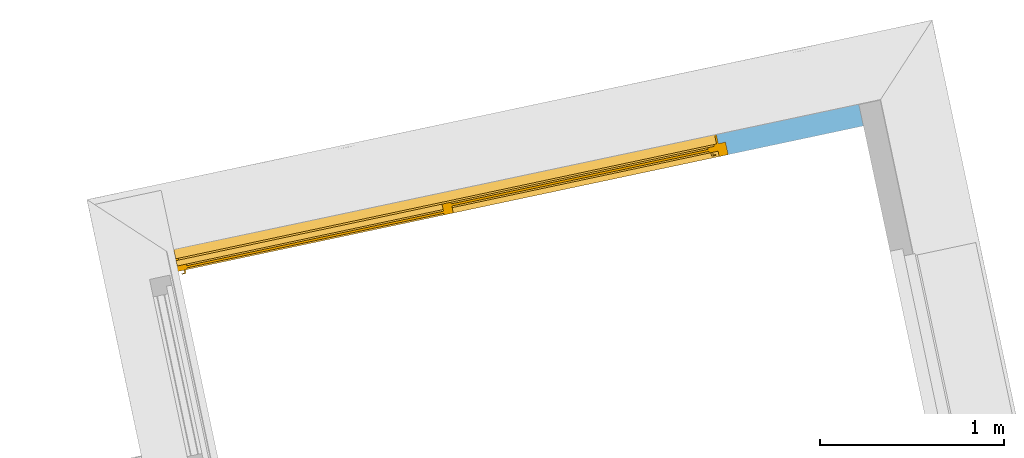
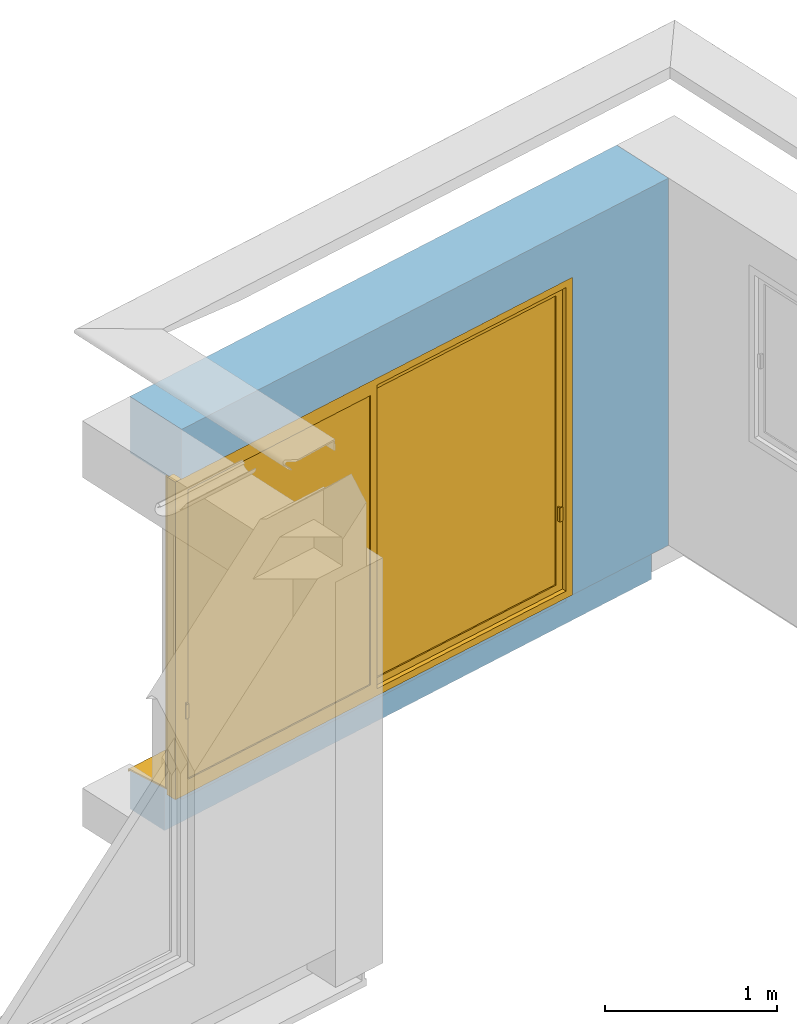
"""IFC2X3 building model written with IfcOpenShell, lengths in centimetres."""

from ifc_helpers import new_model, entity, si_unit, converted_unit, derived_unit, direction, frame, frame_2d, origin, place, context, subcontext, project, spatial, polyline, rectangle, extrude, clip, bounded_halfspace, faceted_brep, source, transform, mapped, material, material_list, layer, layer_set, layer_usage, type_object, type_shapes, element, fill, save


model = new_model("IFC2X3")

# Units and contexts
model_context = context("Model", 3, precision=0.001, world=origin(), true_north=direction((6.12303176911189e-17, 1.0)))
body_context = subcontext(model_context, "Body", "Model", "MODEL_VIEW")
ifc_project = project(units=[si_unit("LENGTHUNIT", "METRE", prefix="CENTI"), si_unit("AREAUNIT", "SQUARE_METRE"), si_unit("VOLUMEUNIT", "CUBIC_METRE"), converted_unit("PLANEANGLEUNIT", "DEGREE", entity("IfcRatioMeasure", 0.0174532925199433), si_unit("PLANEANGLEUNIT", "RADIAN"), dimensions=[0, 0, 0, 0, 0, 0, 0]), si_unit("MASSUNIT", "GRAM", prefix="KILO"), derived_unit("MASSDENSITYUNIT", [(si_unit("MASSUNIT", "GRAM", prefix="KILO"), 1), (si_unit("LENGTHUNIT", "METRE"), -3)]), derived_unit("IONCONCENTRATIONUNIT", [(si_unit("MASSUNIT", "GRAM", prefix="KILO"), 1), (si_unit("LENGTHUNIT", "METRE"), -3)]), derived_unit("MOMENTOFINERTIAUNIT", [(si_unit("LENGTHUNIT", "METRE"), 4)]), si_unit("TIMEUNIT", "SECOND"), si_unit("FREQUENCYUNIT", "HERTZ"), si_unit("THERMODYNAMICTEMPERATUREUNIT", "DEGREE_CELSIUS"), derived_unit("THERMALTRANSMITTANCEUNIT", [(si_unit("MASSUNIT", "GRAM", prefix="KILO"), 1), (si_unit("THERMODYNAMICTEMPERATUREUNIT", "KELVIN"), -1), (si_unit("TIMEUNIT", "SECOND"), -3)]), derived_unit("THERMALCONDUCTANCEUNIT", [(si_unit("MASSUNIT", "GRAM", prefix="KILO"), 1), (si_unit("THERMODYNAMICTEMPERATUREUNIT", "KELVIN"), -1), (si_unit("TIMEUNIT", "SECOND"), -3), (si_unit("LENGTHUNIT", "METRE"), 1)]), derived_unit("VOLUMETRICFLOWRATEUNIT", [(si_unit("LENGTHUNIT", "METRE"), 3), (si_unit("TIMEUNIT", "SECOND"), -1)]), derived_unit("MASSFLOWRATEUNIT", [(si_unit("MASSUNIT", "GRAM", prefix="KILO"), 1), (si_unit("TIMEUNIT", "SECOND"), -1)]), derived_unit("ROTATIONALFREQUENCYUNIT", [(si_unit("TIMEUNIT", "SECOND"), -1)]), si_unit("ELECTRICCURRENTUNIT", "AMPERE"), si_unit("ELECTRICVOLTAGEUNIT", "VOLT"), si_unit("POWERUNIT", "WATT"), si_unit("FORCEUNIT", "NEWTON", prefix="KILO"), si_unit("ILLUMINANCEUNIT", "LUX"), si_unit("LUMINOUSFLUXUNIT", "LUMEN"), si_unit("LUMINOUSINTENSITYUNIT", "CANDELA"), derived_unit("USERDEFINED", [(si_unit("MASSUNIT", "GRAM", prefix="KILO"), -1), (si_unit("LENGTHUNIT", "METRE"), -2), (si_unit("TIMEUNIT", "SECOND"), 3), (si_unit("LUMINOUSFLUXUNIT", "LUMEN"), 1)]), derived_unit("USERDEFINED", [(si_unit("MASSUNIT", "GRAM", prefix="KILO"), 1), (si_unit("TIMEUNIT", "SECOND"), -3), (si_unit("LENGTHUNIT", "METRE"), 3), (si_unit("ELECTRICCURRENTUNIT", "AMPERE"), -2)]), derived_unit("SOUNDPOWERUNIT", [(si_unit("MASSUNIT", "GRAM", prefix="KILO"), 1), (si_unit("TIMEUNIT", "SECOND"), -3), (si_unit("LENGTHUNIT", "METRE"), 2)]), derived_unit("SOUNDPRESSUREUNIT", [(si_unit("MASSUNIT", "GRAM", prefix="KILO"), 1), (si_unit("LENGTHUNIT", "METRE"), -1), (si_unit("TIMEUNIT", "SECOND"), -2)]), derived_unit("LINEARVELOCITYUNIT", [(si_unit("LENGTHUNIT", "METRE"), 1), (si_unit("TIMEUNIT", "SECOND"), -1)]), si_unit("PRESSUREUNIT", "PASCAL"), derived_unit("USERDEFINED", [(si_unit("MASSUNIT", "GRAM", prefix="KILO"), 1), (si_unit("LENGTHUNIT", "METRE"), -2), (si_unit("TIMEUNIT", "SECOND"), -2)]), derived_unit("LINEARFORCEUNIT", [(si_unit("MASSUNIT", "GRAM", prefix="KILO"), 1), (si_unit("TIMEUNIT", "SECOND"), -2)]), derived_unit("PLANARFORCEUNIT", [(si_unit("MASSUNIT", "GRAM", prefix="KILO"), 1), (si_unit("LENGTHUNIT", "METRE"), -1), (si_unit("TIMEUNIT", "SECOND"), -2)]), derived_unit("SPECIFICHEATCAPACITYUNIT", [(si_unit("THERMODYNAMICTEMPERATUREUNIT", "KELVIN"), -1), (si_unit("LENGTHUNIT", "METRE"), 2), (si_unit("TIMEUNIT", "SECOND"), -2)]), derived_unit("HEATINGVALUEUNIT", [(si_unit("LENGTHUNIT", "METRE"), 2), (si_unit("TIMEUNIT", "SECOND"), -2)]), derived_unit("VAPORPERMEABILITYUNIT", [(si_unit("LENGTHUNIT", "METRE"), -1), (si_unit("TIMEUNIT", "SECOND"), 1)]), derived_unit("DYNAMICVISCOSITYUNIT", [(si_unit("MASSUNIT", "GRAM", prefix="KILO"), 1), (si_unit("TIMEUNIT", "SECOND"), -1), (si_unit("LENGTHUNIT", "METRE"), -1)]), derived_unit("THERMALEXPANSIONCOEFFICIENTUNIT", [(si_unit("THERMODYNAMICTEMPERATUREUNIT", "KELVIN"), -1)]), derived_unit("MODULUSOFELASTICITYUNIT", [(si_unit("MASSUNIT", "GRAM", prefix="KILO"), 1), (si_unit("LENGTHUNIT", "METRE"), -1), (si_unit("TIMEUNIT", "SECOND"), -2)]), derived_unit("ISOTHERMALMOISTURECAPACITYUNIT", [(si_unit("LENGTHUNIT", "METRE"), 3), (si_unit("MASSUNIT", "GRAM", prefix="KILO"), -1)]), derived_unit("MOISTUREDIFFUSIVITYUNIT", [(si_unit("TIMEUNIT", "SECOND"), -1), (si_unit("LENGTHUNIT", "METRE"), 2)])], contexts=[model_context])

# Site, building, storey
site_placement = place(None, frame((14083.8920177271, -6853.25409548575, 6900.0), z_axis=(0.0, 0.0, 1.0), x_axis=(0.978188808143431, 0.207717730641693, 0.0)))
site = spatial("IfcSite", under=ifc_project, at=site_placement, Name="Surface", CompositionType="ELEMENT")
building_placement = place(site_placement, origin())
building = spatial("IfcBuilding", under=site, at=building_placement, CompositionType="ELEMENT")
storey_1_placement = place(building_placement, frame((0.0, 0.0, -17.0)))
storey_1 = spatial("IfcBuildingStorey", under=building, at=storey_1_placement, Name="Rez de chaussée (SD)", CompositionType="ELEMENT", Elevation=-16.9999999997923)

# Wall, openings
ifc_material_1 = material(Name="__ PIERRE______________________TEST")
ifc_layer_1 = layer(ifc_material_1, 10.0)
ifc_material_2 = material(Name="__ BETON_parpaings")
ifc_layer_2 = layer(ifc_material_2, 20.0)
ifc_material_3 = material(Name="__ ISOLANT (pat 1)")
ifc_layer_3 = layer(ifc_material_3, 13.0)
ifc_material_4 = material(Name="__ ENDUIT_Blanc")
ifc_layer_4 = layer(ifc_material_4, 2.0)
ifc_layer_set = layer_set([ifc_layer_1, ifc_layer_2, ifc_layer_3, ifc_layer_4], Name="Mur de base:*Mur (45) maçonné isolé + parement pierre")
ifc_layer_usage = layer_usage(ifc_layer_set, "AXIS2", "NEGATIVE", 22.5)
wall_type = type_object("IfcWallType", Name="Mur de base:*Mur (45) maçonné isolé + parement pierre", PredefinedType="STANDARD", material=ifc_layer_set)
wall_placement = place(storey_1_placement, frame((-6239.81321908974, 15699.6673447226, -15.0)))
wall = element("IfcWallStandardCase", 1, at=wall_placement, inside=storey_1, type_object=wall_type, material=ifc_layer_usage, Name="Mur de base:*Mur (45) maçonné isolé + parement pierre", ObjectType="Mur de base:*Mur (45) maçonné isolé + parement pierre", context=body_context, shape_type="Clipping", body=[
    clip(clip(extrude(rectangle(XDim=380.0, YDim=45.0000000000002, at=frame_2d((190.0, 0.0), x_axis=(-1.0, 0.0))), origin(), (0.0, 0.0, 1.0), 291.999999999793), bounded_halfspace(frame((300.0, -7.50000000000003, 32.0), z_axis=(0.0, 0.0, 1.0), x_axis=(0.0, 1.0, 0.0)), True, frame((300.0, -7.50000000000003, 32.0), z_axis=(0.0, 0.0, 1.0), x_axis=(0.0, 1.0, 0.0)), polyline([(0.0, 0.0), (-2.0, 0.0), (-2.0, -1.0), (-8.0, -1.0), (-8.0, -5.0), (-15.0, -5.0), (-15.0, -80.0), (0.0, -80.0), (0.0, 0.0)]))), bounded_halfspace(frame((380.0, -7.50000000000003, 32.0), z_axis=(0.0, 1.0, 0.0), x_axis=(0.0, 0.0, 1.0)), True, frame((380.0, -7.50000000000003, 32.0), z_axis=(0.0, 1.0, 0.0), x_axis=(0.0, 0.0, 1.0)), polyline([(0.0, 0.0), (-27.0, 0.0), (-32.0, 0.0), (-32.0, -380.0), (-1.9204169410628, -380.0), (-1.92041694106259, -80.0), (0.0, -80.0), (0.0, 0.0)]))),
])
opening_1_placement = place(wall_placement, origin())
element("IfcOpeningElement", 2, at=opening_1_placement, cuts=wall, Name="Mur de base:*Mur (45) maçonné isolé + parement pierre", ObjectType="Opening", context=body_context, shape_type="SweptSolid", body=[
    extrude(rectangle(XDim=220.0, YDim=37.0000000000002, at=frame_2d((0.0, 0.0), x_axis=(0.0, 1.0))), frame((-18.5000000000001, -132.499999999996, 142.0), z_axis=(0.0, 1.0, 0.0), x_axis=(1.0, 0.0, 0.0)), (0.0, 0.0, 1.0), 109.999999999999),
])
opening_2_placement = place(wall_placement, frame((-5.0, -50.0, 24.0360895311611)))
opening_2 = element("IfcOpeningElement", 3, at=opening_2_placement, cuts=wall, Name="Mur de base:*Mur (45) maçonné isolé + parement pierre", ObjectType="Opening", context=body_context, shape_type="Brep", body=[
    faceted_brep([(305.0, 38.5000000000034, 7.96391046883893), (305.0, 38.5000000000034, 6.46391046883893), (305.0, 100.0, 0.0), (305.0, 100.0, 227.963910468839), (305.0, 40.5000000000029, 227.963910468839), (305.0, 40.5000000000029, 7.96391046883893), (5.0, 0.0, 7.96391046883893), (5.0, 0.0, 227.963910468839), (5.0, 27.5000000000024, 227.963910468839), (5.0, 27.5000000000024, 7.96391046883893), (305.0, 0.0, 7.96391046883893), (0.0, 27.5000000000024, 7.96391046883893), (0.0, 34.5000000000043, 7.96391046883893), (4.0, 34.5000000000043, 7.96391046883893), (4.0, 40.5000000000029, 7.96391046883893), (5.0, 40.5000000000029, 7.96391046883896), (5.0, 38.5000000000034, 7.96391046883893), (306.0, 40.5000000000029, 7.96391046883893), (306.0, 34.5000000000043, 7.96391046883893), (310.0, 34.5000000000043, 7.96391046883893), (310.0, 27.5000000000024, 7.96391046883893), (305.0, 27.5000000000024, 7.96391046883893), (305.0, 0.0, 227.963910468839), (305.0, 27.5000000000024, 227.963910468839), (5.0, 100.0, 0.0), (5.0, 100.0, 227.963910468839), (5.0, 38.5000000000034, 6.46391046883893), (310.0, 34.5000000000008, 232.96391046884), (310.0, 27.5000000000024, 232.96391046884), (306.0, 34.5000000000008, 228.963910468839), (4.0, 34.5000000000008, 228.963910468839), (0.0, 34.5000000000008, 232.96391046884), (306.0, 40.4999999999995, 228.963910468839), (5.0, 40.5000000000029, 227.963910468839), (4.0, 40.5000000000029, 228.963910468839), (0.0, 27.5000000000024, 232.96391046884)], [[[0, 1, 2, 3, 4, 5]], [[6, 7, 8, 9]], [[10, 6, 9, 11, 12, 13, 14, 15, 16, 0, 5, 17, 18, 19, 20, 21]], [[10, 22, 7, 6]], [[7, 22, 23, 8]], [[3, 2, 24, 25]], [[2, 1, 26, 24]], [[1, 0, 16, 26]], [[20, 19, 27, 28]], [[19, 18, 29, 30, 13, 12, 31, 27]], [[18, 17, 32, 29]], [[17, 5, 4, 33, 15, 14, 34, 32]], [[21, 20, 28, 35, 11, 9, 8, 23]], [[28, 27, 31, 35]], [[30, 29, 32, 34]], [[31, 12, 11, 35]], [[13, 30, 34, 14]], [[3, 25, 33, 4]], [[25, 24, 26, 16, 15, 33]], [[22, 10, 21, 23]]]),
])

# Storey
storey_2_placement = place(building_placement, origin())
storey_2 = spatial("IfcBuildingStorey", under=building, at=storey_2_placement, Name="_Rez de chaussée Séjour", CompositionType="ELEMENT", Elevation=2.07727662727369e-10)

# Window
ifc_material_5 = material(Name="Fenêtre - Poignée")
ifc_material_6 = material(Name="Fenêtre - Appui")
ifc_material_7 = material(Name="Fenêtre - Vitrage")
ifc_material_8 = material(Name="__ METAL_gris foncé (menuiseries acier)______________________TEST")
ifc_material_9 = material(Name="Fenêtre - Cadre")
ifc_material_list = material_list([ifc_material_5, ifc_material_6, ifc_material_7, ifc_material_8, ifc_material_9])
window_style = type_object("IfcWindowStyle", Name="2 Vantaux coulissants - Droits:c 300x220", ConstructionType="NOTDEFINED", OperationType="DOUBLE_PANEL_VERTICAL", ParameterTakesPrecedence=False, Sizeable=False, material=ifc_material_list)
shared_shape = source(origin(), body_context, "Body", "Brep", [
    faceted_brep([(302.0, -26.0, 62.9639104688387), (302.904778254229, -26.0, 62.9639104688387), (302.904778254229, -26.4999999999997, 62.9639104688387), (301.246868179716, -26.4999999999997, 62.9639104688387), (301.0, -26.2531318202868, 62.9639104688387), (301.0, -24.4999999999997, 62.9639104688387), (302.0, -24.4999999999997, 62.9639104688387), (301.0, -24.4999999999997, 72.9639104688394), (301.0, -26.2531318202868, 72.9639104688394), (301.246868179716, -26.4999999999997, 72.9639104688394), (302.904778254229, -26.4999999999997, 72.9639104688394), (302.904778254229, -26.0, 72.9639104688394), (302.0, -26.0, 72.9639104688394), (302.0, -24.4999999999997, 72.9639104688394), (303.325663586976, -26.0, 72.7895740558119), (303.500000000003, -26.0, 72.3686887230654), (303.500000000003, -26.0, 63.559132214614), (303.325663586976, -26.0, 63.1382468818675), (303.500000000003, -26.4999999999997, 63.559132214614), (303.500000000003, -26.4999999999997, 72.3686887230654), (303.325663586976, -26.4999999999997, 63.1382468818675), (303.325663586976, -26.4999999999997, 72.7895740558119)], [[[0, 1, 2, 3, 4, 5, 6]], [[7, 8, 9, 10, 11, 12, 13]], [[5, 4, 8, 7]], [[6, 5, 7, 13]], [[0, 6, 13, 12]], [[1, 0, 12, 11, 14, 15, 16, 17]], [[18, 16, 15, 19]], [[20, 18, 19, 21, 10, 9, 3, 2]], [[4, 3, 9, 8]], [[10, 21, 14, 11]], [[14, 21, 19, 15]], [[18, 20, 17, 16]], [[17, 20, 2, 1]]]),
    faceted_brep([(8.75313182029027, -29.5000000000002, 62.9639104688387), (7.09522174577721, -29.5000000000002, 62.9639104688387), (7.09522174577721, -29.0, 62.9639104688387), (8.0, -29.0, 62.9639104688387), (8.0, -27.5000000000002, 62.9639104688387), (9.0, -27.5000000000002, 62.9639104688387), (9.0, -29.2531318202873, 62.9639104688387), (8.0, -27.5000000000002, 72.9639104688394), (8.0, -29.0, 72.9639104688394), (7.09522174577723, -29.0, 72.9639104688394), (7.09522174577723, -29.5000000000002, 72.9639104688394), (8.75313182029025, -29.5000000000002, 72.9639104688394), (9.0, -29.2531318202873, 72.9639104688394), (9.0, -27.5000000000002, 72.9639104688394), (6.50000000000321, -29.0, 63.559132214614), (6.50000000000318, -29.0, 72.3686887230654), (6.67433641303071, -29.0, 72.7895740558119), (6.67433641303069, -29.0, 63.1382468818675), (6.50000000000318, -29.5000000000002, 72.3686887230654), (6.50000000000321, -29.5000000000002, 63.559132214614), (6.67433641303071, -29.5000000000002, 72.7895740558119), (6.67433641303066, -29.5000000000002, 63.1382468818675)], [[[0, 1, 2, 3, 4, 5, 6]], [[7, 8, 9, 10, 11, 12, 13]], [[12, 6, 5, 13]], [[13, 5, 4, 7]], [[7, 4, 3, 8]], [[14, 15, 16, 9, 8, 3, 2, 17]], [[18, 15, 14, 19]], [[1, 0, 11, 10, 20, 18, 19, 21]], [[11, 0, 6, 12]], [[9, 16, 20, 10]], [[15, 18, 20, 16]], [[14, 17, 21, 19]], [[2, 1, 21, 17]]]),
    faceted_brep([(5.0, 19.0, 3.25823129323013), (5.0, 19.0, 1.70265964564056), (5.0, 18.5000000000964, 1.7552117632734), (5.0, 18.5000000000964, 2.78526223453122), (5.0, -16.4999999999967, 6.46391046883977), (5.0, -16.4999999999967, 7.96391046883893), (5.0, -16.0, 7.96391046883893), (5.0, -16.0, 6.93687952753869), (305.0, 19.0, 3.25823129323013), (305.0, -16.0, 6.93687952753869), (305.0, -16.0, 7.96391046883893), (305.0, -16.4999999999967, 7.96391046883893), (305.0, -16.4999999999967, 6.46391046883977), (305.0, 18.5000000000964, 2.78526223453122), (305.0, 18.5000000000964, 1.7552117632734), (305.0, 19.0, 1.70265964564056)], [[[0, 1, 2, 3, 4, 5, 6, 7]], [[8, 9, 10, 11, 12, 13, 14, 15]], [[7, 9, 8, 0]], [[6, 10, 9, 7]], [[5, 11, 10, 6]], [[4, 12, 11, 5]], [[3, 13, 12, 4]], [[2, 14, 13, 3]], [[1, 15, 14, 2]], [[0, 8, 15, 1]]]),
    faceted_brep([(305.0, 18.8972579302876, 3.66847605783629), (305.0, 18.6418113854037, 3.79863257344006), (305.0, -16.0, 7.43963366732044), (305.0, -16.0, 6.93687952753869), (305.0, 19.0, 3.25823129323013), (305.0, 19.0, 3.40082381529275), (304.500000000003, 18.6418113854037, 3.79863257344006), (304.500000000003, 18.8972579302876, 3.66847605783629), (304.500000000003, 19.0, 3.40082381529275), (304.500000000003, 19.0, 3.25823129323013), (304.500000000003, -16.0, 6.93687952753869), (304.500000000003, -16.0, 7.43963366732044)], [[[0, 1, 2, 3, 4, 5]], [[6, 7, 8, 9, 10, 11]], [[9, 4, 3, 10]], [[10, 3, 2, 11]], [[11, 2, 1, 6]], [[0, 7, 6, 1]], [[5, 8, 7, 0]], [[8, 5, 4, 9]]]),
    faceted_brep([(5.50000000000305, 18.8972579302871, 3.66847605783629), (5.50000000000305, 18.6418113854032, 3.79863257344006), (5.50000000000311, -16.0, 7.43963366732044), (5.50000000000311, -16.0, 6.93687952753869), (5.50000000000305, 19.0, 3.25823129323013), (5.50000000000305, 19.0, 3.40082381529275), (5.0, 18.6418113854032, 3.79863257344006), (5.0, 18.8972579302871, 3.66847605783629), (5.0, 19.0, 3.40082381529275), (5.0, 19.0, 3.25823129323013), (5.0, -16.0, 6.93687952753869), (5.0, -16.0, 7.43963366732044)], [[[0, 1, 2, 3, 4, 5]], [[6, 7, 8, 9, 10, 11]], [[9, 4, 3, 10]], [[10, 3, 2, 11]], [[6, 11, 2, 1]], [[0, 7, 6, 1]], [[5, 8, 7, 0]], [[8, 5, 4, 9]]]),
    faceted_brep([(157.500000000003, -22.4000000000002, 222.963910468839), (300.0, -22.3999999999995, 222.963910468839), (300.0, -22.3999999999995, 17.963910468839), (157.500000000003, -22.4000000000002, 17.963910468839), (157.500000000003, -23.6000000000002, 17.963910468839), (157.500000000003, -23.6000000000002, 222.963910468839), (300.0, -23.5999999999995, 17.963910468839), (300.0, -23.5999999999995, 222.963910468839)], [[[0, 1, 2, 3]], [[3, 4, 5, 0]], [[2, 6, 4, 3]], [[1, 7, 6, 2]], [[5, 4, 6, 7]], [[0, 5, 7, 1]]]),
    faceted_brep([(152.500000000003, -21.5000000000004, 227.963910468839), (152.500000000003, -21.5000000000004, 12.9639104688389), (152.500000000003, -24.5000000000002, 12.9639104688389), (152.500000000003, -24.5000000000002, 227.963910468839), (305.0, -21.4999999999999, 12.9639104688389), (305.0, -24.4999999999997, 12.9639104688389), (305.0, -24.4999999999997, 227.963910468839), (300.0, -24.4999999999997, 17.963910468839), (157.500000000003, -24.5000000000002, 17.963910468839), (157.500000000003, -24.5000000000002, 222.963910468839), (300.0, -24.4999999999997, 222.963910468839), (305.0, -21.4999999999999, 227.963910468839), (157.500000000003, -21.5000000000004, 17.963910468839), (300.0, -21.4999999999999, 17.963910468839), (300.0, -21.4999999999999, 222.963910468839), (157.500000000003, -21.5000000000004, 222.963910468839)], [[[0, 1, 2, 3]], [[1, 4, 5, 2]], [[2, 5, 6, 3], [7, 8, 9, 10]], [[4, 11, 6, 5]], [[4, 1, 0, 11], [12, 13, 14, 15]], [[9, 8, 12, 15]], [[8, 7, 13, 12]], [[7, 10, 14, 13]], [[11, 0, 3, 6]], [[10, 9, 15, 14]]]),
    faceted_brep([(152.500000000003, -25.4000000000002, 17.963910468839), (10.0, -25.4000000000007, 17.963910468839), (10.0, -25.4000000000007, 222.963910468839), (152.500000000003, -25.4000000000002, 222.963910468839), (152.500000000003, -26.6000000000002, 222.963910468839), (152.500000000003, -26.6000000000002, 17.963910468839), (10.0, -26.6000000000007, 17.963910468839), (10.0, -26.6000000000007, 222.963910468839)], [[[0, 1, 2, 3]], [[3, 4, 5, 0]], [[1, 6, 7, 2]], [[0, 5, 6, 1]], [[5, 4, 7, 6]], [[2, 7, 4, 3]]]),
    faceted_brep([(152.500000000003, -24.5000000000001, 222.963910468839), (152.500000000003, -24.5000000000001, 17.963910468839), (152.500000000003, -27.4999999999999, 17.963910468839), (152.500000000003, -27.4999999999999, 222.963910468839), (10.0, -24.5000000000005, 17.963910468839), (10.0, -27.5000000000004, 17.963910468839), (10.0, -27.5000000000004, 222.963910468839), (5.0, -27.5000000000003, 12.963910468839), (157.500000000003, -27.4999999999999, 12.963910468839), (157.500000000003, -27.4999999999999, 227.963910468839), (5.0, -27.5000000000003, 227.963910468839), (10.0, -24.5000000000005, 222.963910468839), (157.500000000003, -24.5000000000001, 12.963910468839), (5.0, -24.5000000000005, 12.963910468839), (5.0, -24.5000000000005, 227.963910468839), (157.500000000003, -24.5000000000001, 227.963910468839)], [[[0, 1, 2, 3]], [[1, 4, 5, 2]], [[2, 5, 6, 3], [7, 8, 9, 10]], [[4, 11, 6, 5]], [[4, 1, 0, 11], [12, 13, 14, 15]], [[9, 8, 12, 15]], [[8, 7, 13, 12]], [[7, 10, 14, 13]], [[11, 0, 3, 6]], [[10, 9, 15, 14]]], outer=[[True], [True], [False, True], [True], [False, True], [True], [True], [True], [True], [True]]),
    faceted_brep([(310.0, -27.5000000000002, 7.96391046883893), (0.0, -27.5000000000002, 7.96391046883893), (0.0, -20.5000000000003, 7.96391046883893), (5.0, -20.5000000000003, 7.96391046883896), (5.0, -14.5, 7.96391046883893), (305.0, -14.4999999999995, 7.96391046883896), (305.0, -20.5000000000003, 7.96391046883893), (310.0, -20.5000000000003, 7.96391046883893), (310.0, -20.5000000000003, 232.96391046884), (310.0, -27.5000000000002, 232.96391046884), (305.0, -20.5000000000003, 12.7053722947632), (5.0, -20.5000000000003, 12.7053722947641), (0.0, -20.5000000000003, 232.96391046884), (303.500000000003, -20.5000000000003, 226.463910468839), (6.50000000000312, -20.5000000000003, 226.463910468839), (6.50000000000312, -20.5000000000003, 14.4639104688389), (303.500000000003, -20.5000000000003, 14.4639104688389), (305.0, -14.4999999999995, 7.46391046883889), (305.0, -13.4999999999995, 7.46391046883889), (305.0, -13.4999999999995, 10.8297279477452), (5.0, -14.5, 7.46391046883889), (5.0, -13.5, 10.8297279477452), (5.0, -13.5, 7.46391046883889), (0.0, -27.5000000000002, 232.96391046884), (5.0, -27.5000000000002, 227.963910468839), (305.0, -27.5000000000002, 227.963910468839), (305.0, -27.5, 12.9639104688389), (5.0, -27.5000000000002, 12.9639104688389), (303.500000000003, -21.5000000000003, 14.4639104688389), (303.500000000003, -21.5000000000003, 226.463910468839), (6.50000000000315, -21.5000000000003, 14.4639104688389), (6.50000000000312, -21.5000000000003, 226.463910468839), (5.0, -21.5000000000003, 227.963910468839), (5.0, -21.5000000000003, 12.9639104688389), (305.0, -21.5000000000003, 12.9639104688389), (305.0, -21.5000000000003, 227.963910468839)], [[[0, 1, 2, 3, 4, 5, 6, 7]], [[7, 8, 9, 0]], [[7, 6, 10, 11, 3, 2, 12, 8], [13, 14, 15, 16]], [[10, 6, 5, 17, 18, 19]], [[5, 4, 20, 17]], [[4, 3, 11, 21, 22, 20]], [[2, 1, 23, 12]], [[0, 9, 23, 1], [24, 25, 26, 27]], [[13, 16, 28, 29]], [[28, 16, 15, 30]], [[31, 30, 15, 14]], [[19, 21, 11, 10]], [[29, 28, 30, 31], [32, 33, 34, 35]], [[34, 26, 25, 35]], [[26, 34, 33, 27]], [[24, 27, 33, 32]], [[18, 22, 21, 19]], [[17, 20, 22, 18]], [[13, 29, 31, 14]], [[12, 23, 9, 8]], [[35, 25, 24, 32]]], outer=[[True], [True], [True, False], [True], [True], [True], [True], [True, False], [True], [True], [True], [True], [False, True], [True], [True], [True], [True], [True], [True], [True], [True]]),
    faceted_brep([(305.0, -14.5, 7.96391046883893), (306.0, -14.5, 7.96391046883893), (306.0, -20.5000000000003, 7.96391046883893), (305.0, -20.5000000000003, 7.96391046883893), (305.0, -20.5000000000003, 227.963910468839), (305.0, -14.5, 227.963910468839), (306.0, -20.5000000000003, 228.963910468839), (4.0, -20.5000000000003, 228.963910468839), (4.0, -20.5000000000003, 7.96391046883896), (5.0, -20.5000000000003, 7.96391046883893), (5.0, -20.5000000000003, 227.963910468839), (306.0, -14.5, 228.963910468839), (5.0, -14.5, 227.963910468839), (5.0, -14.5, 7.96391046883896), (4.0, -14.5, 7.96391046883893), (4.0, -14.5, 228.963910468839)], [[[0, 1, 2, 3]], [[3, 4, 5, 0]], [[2, 6, 7, 8, 9, 10, 4, 3]], [[1, 11, 6, 2]], [[0, 5, 12, 13, 14, 15, 11, 1]], [[10, 9, 13, 12]], [[13, 9, 8, 14]], [[15, 14, 8, 7]], [[4, 10, 12, 5]], [[11, 15, 7, 6]]]),
])
type_shapes(window_style, [shared_shape])
window_placement = place(opening_2_placement, frame((0.0, 55.0, 0.0)))
window = element("IfcWindow", 4, at=window_placement, inside=storey_2, type_object=window_style, material=ifc_material_list, Name="2 Vantaux coulissants - Droits:c 300x220", ObjectType="2 Vantaux coulissants - Droits:c 300x220", OverallHeight=233.000000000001, OverallWidth=310.000000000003, context=body_context, shape_type="MappedRepresentation", body=[
    mapped(shared_shape, transform((0.0, 0.0, 0.0), scale=1.0)),
])

fill(opening_2, window)

save(model, "model.ifc")
